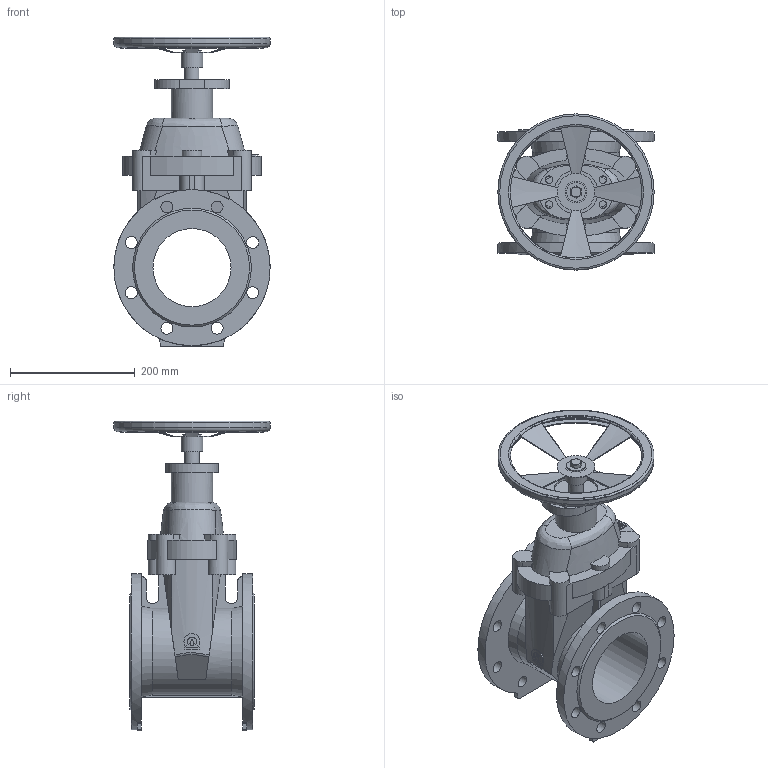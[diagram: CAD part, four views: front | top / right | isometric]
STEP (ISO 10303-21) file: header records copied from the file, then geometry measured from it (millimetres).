
FILE_DESCRIPTION(('STEP AP203'), '1');
FILE_NAME('Çàäâèæêà 47GV.M DN125 ñ ìàõîâèêîì', '', ('UNSPECIFIED'), ('UNSPECIFIED'), 'ASCON STEP Converter 1.6', 'ASCON Math Kernel', '');
FILE_SCHEMA(('CONFIG_CONTROL_DESIGN'));
Length unit declared in the file: millimetre
Bounding box: 250 x 250 x 496 mm (x, y, z)
Volume: 5232703.5 mm3; surface area: 578745.6 mm2
Topology: 1 solids, 1 shells, 252 faces, 675 edges, 436 vertices
Faces by surface type: plane 124, cylinder 94, cone 18, bspline 10, torus 6
Full cylindrical faces by diameter (mm): 12 x4, 19 x16, 24 x1, 30 x1, 35 x1, 66 x1, 70 x1, 125 x1, 213 x1, 247 x1, 250 x3
Entity records: 13142 total; most frequent: CARTESIAN_POINT 4916, ORIENTED_EDGE 1264, DIRECTION 1250, EDGE_CURVE 632, AXIS2_PLACEMENT_3D 481, VERTEX_POINT 436, EDGE_LOOP 356, LINE 288
